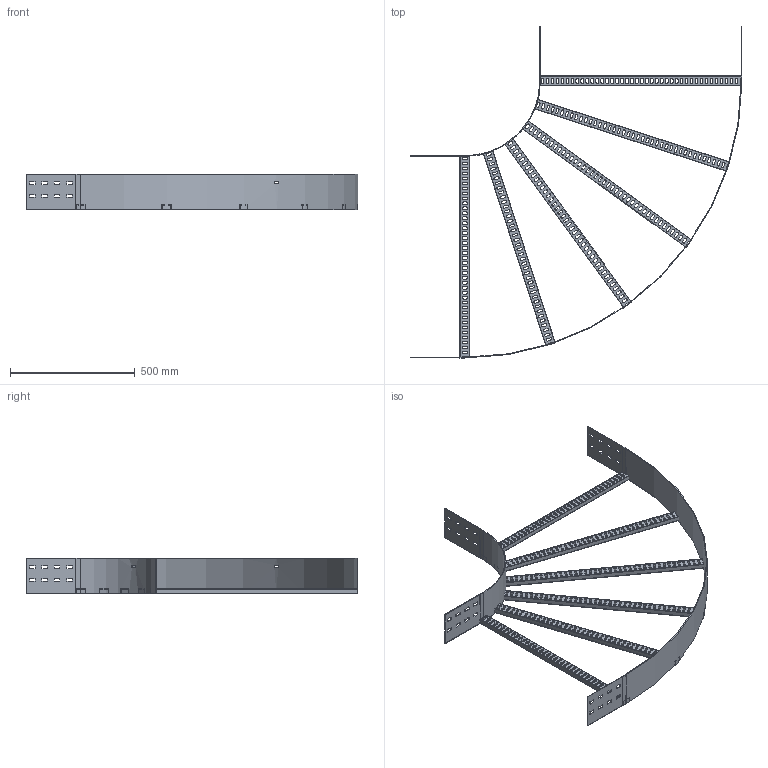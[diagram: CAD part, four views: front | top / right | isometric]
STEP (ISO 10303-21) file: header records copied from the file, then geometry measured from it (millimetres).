
FILE_DESCRIPTION(/* description */ ('','CAx-IF Rec.Pracs.---Representation and Presentation of Product Manufacturing Information (PMI)---4.0---2014-10-13'),/* implementation_level */ '2;1');
FILE_NAME(/* name */ 'Eurostrut_EFB150-800-90-300_Bend 90 for Cable Ladder ECL.step',/* time_stamp */ '2026-09-07T12:15:52+02:00',/* author */ (''),/* organization */ (''),/* preprocessor_version */ 'ST-DEVELOPER v20.1',/* originating_system */ 'Autodesk Revit 2027 27.2.0.39',/* authorisation */ '');
FILE_SCHEMA (('AP242_MANAGED_MODEL_BASED_3D_ENGINEERING_MIM_LF { 1 0 10303 442 2 1 4 }'));
Length unit declared in the file: millimetre
Products named in the file (6): TopLevelAssembly; Sweep; Extrusion; Extrusion_1; Eurostrut_Cable Ladder_Rung_Horizontal Bend_With slots; Eurostrut_Cable Ladder_Accessory End SWEEP
Assembly tree (8 placements, depth 2):
  TopLevelAssembly
    Sweep
    Extrusion
    Extrusion_1
    Eurostrut_Cable Ladder_Rung_Horizontal Bend_With slots
    Eurostrut_Cable Ladder_Accessory End SWEEP  x4
Bounding box: 1331 x 1331 x 142 mm (x, y, z)
Volume: 1890457.5 mm3; surface area: 1727353.1 mm2
Topology: 16 solids, 16 shells, 1288 faces, 3768 edges, 2512 vertices
Faces by surface type: plane 768, bspline 492, cylinder 28
Entity records: 54012 total; most frequent: CARTESIAN_POINT 22084, ORIENTED_EDGE 6888, DIRECTION 5884, EDGE_CURVE 3444, LINE 2396, VECTOR 2396, VERTEX_POINT 2296, AXIS2_PLACEMENT_3D 1744
